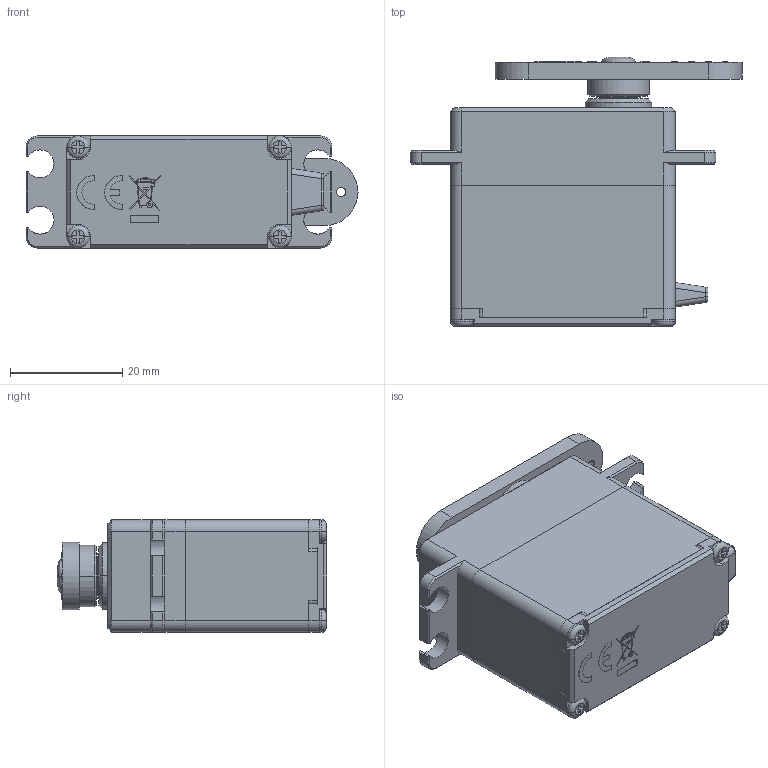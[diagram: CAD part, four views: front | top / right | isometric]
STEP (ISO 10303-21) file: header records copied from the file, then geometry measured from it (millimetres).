
FILE_DESCRIPTION((''),'2;1');
FILE_NAME('DB961WP_230829_ASM','2023-08-29T',('hyojin.kil'),(''),'CREO PARAMETRIC BY PTC INC, 2016050','CREO PARAMETRIC BY PTC INC, 2016050','');
FILE_SCHEMA(('CONFIG_CONTROL_DESIGN'));
Products named in the file (15): X700_SKEL_1_1; X700T_AL6061_120101010164_1_1; X700M_AL6061_120101020155_1_1; X700L_AL6061_120101030153_1_1; X700SG5F-HP_S45C_120212000823_1; X700SG5_S45C_120212000661_ASM_1_ASM; 10A_CBH_M2XL28_120201000150_1_1; X700_ASM_1_ASM_1_ASM; WP_3P_BUSHING_120105020030_1; DB961WP_BUSHING__ASM_1_ASM; HD-IM25_PA66_120217000084; 120208000024_11X8X3_METAL_RING; TW_6_5X3_2_SUS_120204000003; CBH_M3XL5_SUS_120201000113; DB961WP_230829_ASM
Assembly tree (17 placements, depth 5):
  DB961WP_230829_ASM
    DB961WP_BUSHING__ASM_1_ASM
      X700_ASM_1_ASM_1_ASM
        X700_SKEL_1_1
        X700T_AL6061_120101010164_1_1
        X700M_AL6061_120101020155_1_1
        X700L_AL6061_120101030153_1_1
        X700SG5_S45C_120212000661_ASM_1_ASM
          X700SG5F-HP_S45C_120212000823_1
        10A_CBH_M2XL28_120201000150_1_1  x4
      WP_3P_BUSHING_120105020030_1
    HD-IM25_PA66_120217000084
    120208000024_11X8X3_METAL_RING
    TW_6_5X3_2_SUS_120204000003
    CBH_M3XL5_SUS_120201000113
Bounding box: 59.15 x 48.04 x 20 mm (x, y, z)
Volume: 34080.4 mm3; surface area: 14924.3 mm2
Topology: 13 solids, 13 shells, 1904 faces, 5361 edges, 3532 vertices
Faces by surface type: plane 1020, cylinder 527, cone 174, bspline 104, torus 79
Entity records: 73727 total; most frequent: CARTESIAN_POINT 18353, ORIENTED_EDGE 9128, DIRECTION 8338, EDGE_CURVE 4564, PRESENTATION_STYLE_ASSIGNMENT 4315, STYLED_ITEM 4314, CURVE_STYLE 4301, VECTOR 3078
